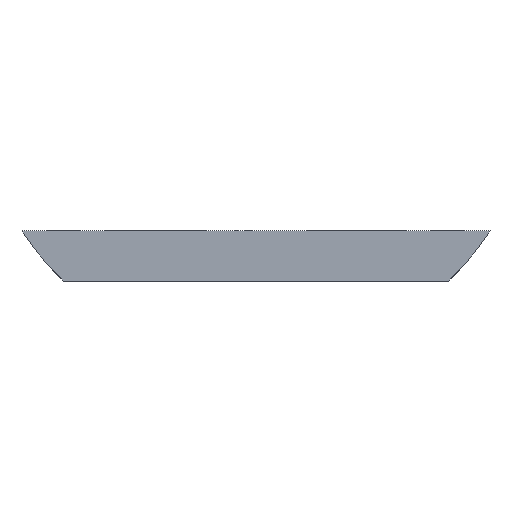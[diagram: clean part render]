
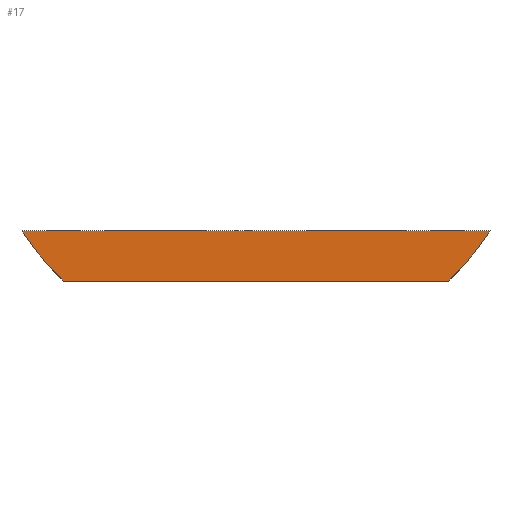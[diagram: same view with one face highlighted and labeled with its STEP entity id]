
A CAD part, left-side view. The second image highlights one B-rep face of the part: STEP entity #17.
In plain terms, the highlighted planar face has unit normal (-1, 0, 0).
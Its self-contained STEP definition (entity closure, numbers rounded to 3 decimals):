
#17 = ADVANCED_FACE('',(#18),#32,.F.);
#18 = FACE_BOUND('',#19,.F.);
#19 = EDGE_LOOP('',(#20,#55,#84,#112));
#20 = ORIENTED_EDGE('',*,*,#21,.F.);
#21 = EDGE_CURVE('',#22,#24,#26,.T.);
#22 = VERTEX_POINT('',#23);
#23 = CARTESIAN_POINT('',(38.,-14.008,-9.));
#24 = VERTEX_POINT('',#25);
#25 = CARTESIAN_POINT('',(38.,14.008,-9.));
#26 = SURFACE_CURVE('',#27,(#31,#43),.PCURVE_S1.);
#27 = LINE('',#28,#29);
#28 = CARTESIAN_POINT('',(38.,-15.5,-9.));
#29 = VECTOR('',#30,1.);
#30 = DIRECTION('',(-0.,1.,0.));
#31 = PCURVE('',#32,#37);
#32 = PLANE('',#33);
#33 = AXIS2_PLACEMENT_3D('',#34,#35,#36);
#34 = CARTESIAN_POINT('',(38.,-15.5,-12.));
#35 = DIRECTION('',(1.,0.,-0.));
#36 = DIRECTION('',(0.,0.,1.));
#37 = DEFINITIONAL_REPRESENTATION('',(#38),#42);
#38 = LINE('',#39,#40);
#39 = CARTESIAN_POINT('',(3.,0.));
#40 = VECTOR('',#41,1.);
#41 = DIRECTION('',(0.,-1.));
#42 = ( GEOMETRIC_REPRESENTATION_CONTEXT(2) 
PARAMETRIC_REPRESENTATION_CONTEXT() REPRESENTATION_CONTEXT('2D SPACE',''
  ) );
#43 = PCURVE('',#44,#49);
#44 = PLANE('',#45);
#45 = AXIS2_PLACEMENT_3D('',#46,#47,#48);
#46 = CARTESIAN_POINT('',(38.,-15.5,-9.));
#47 = DIRECTION('',(0.,0.,1.));
#48 = DIRECTION('',(1.,0.,-0.));
#49 = DEFINITIONAL_REPRESENTATION('',(#50),#54);
#50 = LINE('',#51,#52);
#51 = CARTESIAN_POINT('',(0.,0.));
#52 = VECTOR('',#53,1.);
#53 = DIRECTION('',(0.,1.));
#54 = ( GEOMETRIC_REPRESENTATION_CONTEXT(2) 
PARAMETRIC_REPRESENTATION_CONTEXT() REPRESENTATION_CONTEXT('2D SPACE',''
  ) );
#55 = ORIENTED_EDGE('',*,*,#56,.T.);
#56 = EDGE_CURVE('',#22,#57,#59,.T.);
#57 = VERTEX_POINT('',#58);
#58 = CARTESIAN_POINT('',(38.,-11.542,-12.));
#59 = SURFACE_CURVE('',#60,(#65,#72),.PCURVE_S1.);
#60 = CIRCLE('',#61,16.65);
#61 = AXIS2_PLACEMENT_3D('',#62,#63,#64);
#62 = CARTESIAN_POINT('',(38.,0.,0.));
#63 = DIRECTION('',(1.,0.,0.));
#64 = DIRECTION('',(-0.,0.,1.));
#65 = PCURVE('',#32,#66);
#66 = DEFINITIONAL_REPRESENTATION('',(#67),#71);
#67 = CIRCLE('',#68,16.65);
#68 = AXIS2_PLACEMENT_2D('',#69,#70);
#69 = CARTESIAN_POINT('',(12.,-15.5));
#70 = DIRECTION('',(1.,0.));
#71 = ( GEOMETRIC_REPRESENTATION_CONTEXT(2) 
PARAMETRIC_REPRESENTATION_CONTEXT() REPRESENTATION_CONTEXT('2D SPACE',''
  ) );
#72 = PCURVE('',#73,#78);
#73 = CYLINDRICAL_SURFACE('',#74,16.65);
#74 = AXIS2_PLACEMENT_3D('',#75,#76,#77);
#75 = CARTESIAN_POINT('',(37.,0.,0.));
#76 = DIRECTION('',(1.,0.,0.));
#77 = DIRECTION('',(-0.,0.,1.));
#78 = DEFINITIONAL_REPRESENTATION('',(#79),#83);
#79 = LINE('',#80,#81);
#80 = CARTESIAN_POINT('',(0.,1.));
#81 = VECTOR('',#82,1.);
#82 = DIRECTION('',(1.,0.));
#83 = ( GEOMETRIC_REPRESENTATION_CONTEXT(2) 
PARAMETRIC_REPRESENTATION_CONTEXT() REPRESENTATION_CONTEXT('2D SPACE',''
  ) );
#84 = ORIENTED_EDGE('',*,*,#85,.T.);
#85 = EDGE_CURVE('',#57,#86,#88,.T.);
#86 = VERTEX_POINT('',#87);
#87 = CARTESIAN_POINT('',(38.,11.542,-12.));
#88 = SURFACE_CURVE('',#89,(#93,#100),.PCURVE_S1.);
#89 = LINE('',#90,#91);
#90 = CARTESIAN_POINT('',(38.,-15.5,-12.));
#91 = VECTOR('',#92,1.);
#92 = DIRECTION('',(-0.,1.,0.));
#93 = PCURVE('',#32,#94);
#94 = DEFINITIONAL_REPRESENTATION('',(#95),#99);
#95 = LINE('',#96,#97);
#96 = CARTESIAN_POINT('',(0.,0.));
#97 = VECTOR('',#98,1.);
#98 = DIRECTION('',(0.,-1.));
#99 = ( GEOMETRIC_REPRESENTATION_CONTEXT(2) 
PARAMETRIC_REPRESENTATION_CONTEXT() REPRESENTATION_CONTEXT('2D SPACE',''
  ) );
#100 = PCURVE('',#101,#106);
#101 = PLANE('',#102);
#102 = AXIS2_PLACEMENT_3D('',#103,#104,#105);
#103 = CARTESIAN_POINT('',(38.,-15.5,-12.));
#104 = DIRECTION('',(0.,0.,1.));
#105 = DIRECTION('',(1.,0.,-0.));
#106 = DEFINITIONAL_REPRESENTATION('',(#107),#111);
#107 = LINE('',#108,#109);
#108 = CARTESIAN_POINT('',(0.,0.));
#109 = VECTOR('',#110,1.);
#110 = DIRECTION('',(0.,1.));
#111 = ( GEOMETRIC_REPRESENTATION_CONTEXT(2) 
PARAMETRIC_REPRESENTATION_CONTEXT() REPRESENTATION_CONTEXT('2D SPACE',''
  ) );
#112 = ORIENTED_EDGE('',*,*,#113,.T.);
#113 = EDGE_CURVE('',#86,#24,#114,.T.);
#114 = SURFACE_CURVE('',#115,(#120,#127),.PCURVE_S1.);
#115 = CIRCLE('',#116,16.65);
#116 = AXIS2_PLACEMENT_3D('',#117,#118,#119);
#117 = CARTESIAN_POINT('',(38.,0.,0.));
#118 = DIRECTION('',(1.,0.,0.));
#119 = DIRECTION('',(-0.,0.,1.));
#120 = PCURVE('',#32,#121);
#121 = DEFINITIONAL_REPRESENTATION('',(#122),#126);
#122 = CIRCLE('',#123,16.65);
#123 = AXIS2_PLACEMENT_2D('',#124,#125);
#124 = CARTESIAN_POINT('',(12.,-15.5));
#125 = DIRECTION('',(1.,0.));
#126 = ( GEOMETRIC_REPRESENTATION_CONTEXT(2) 
PARAMETRIC_REPRESENTATION_CONTEXT() REPRESENTATION_CONTEXT('2D SPACE',''
  ) );
#127 = PCURVE('',#128,#133);
#128 = CYLINDRICAL_SURFACE('',#129,16.65);
#129 = AXIS2_PLACEMENT_3D('',#130,#131,#132);
#130 = CARTESIAN_POINT('',(37.,0.,0.));
#131 = DIRECTION('',(1.,0.,0.));
#132 = DIRECTION('',(-0.,0.,1.));
#133 = DEFINITIONAL_REPRESENTATION('',(#134),#138);
#134 = LINE('',#135,#136);
#135 = CARTESIAN_POINT('',(0.,1.));
#136 = VECTOR('',#137,1.);
#137 = DIRECTION('',(1.,0.));
#138 = ( GEOMETRIC_REPRESENTATION_CONTEXT(2) 
PARAMETRIC_REPRESENTATION_CONTEXT() REPRESENTATION_CONTEXT('2D SPACE',''
  ) );
